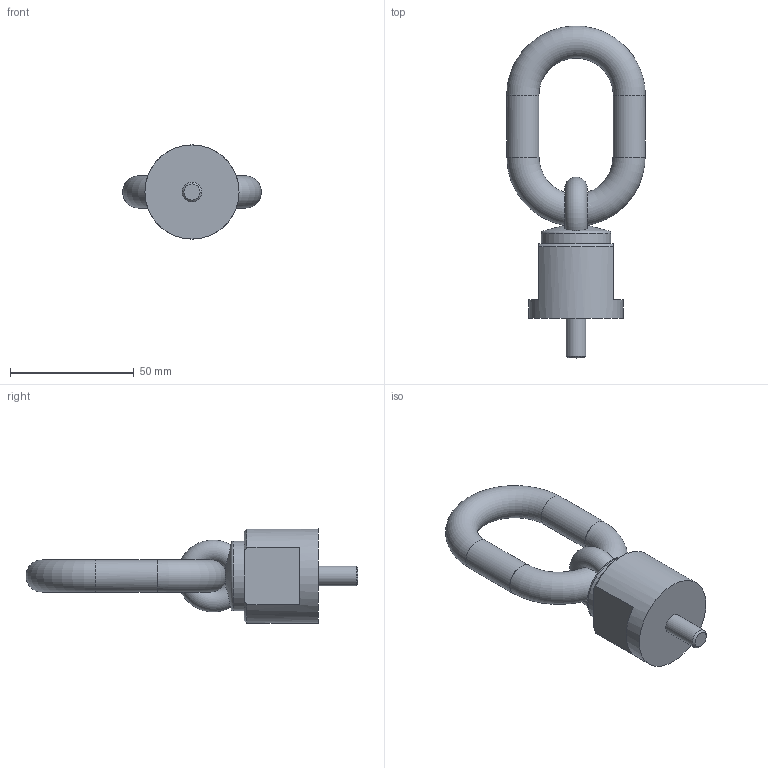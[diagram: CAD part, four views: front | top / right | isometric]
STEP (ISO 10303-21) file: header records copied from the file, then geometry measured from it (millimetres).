
FILE_DESCRIPTION( ( 'STEP AP203' ), '1' );
FILE_NAME( 'p:/temp/worker_5/temp/app_40_0201906261610127140513810e898ce_000000_00_00_000000/format_2/C8000030816.stp', '2019-06-26T14:10:13', ( '' ), ( '' ), ' ', 'PARTsolutions', ' ' );
FILE_SCHEMA( ( 'CONFIG_CONTROL_DESIGN' ) );
Length unit declared in the file: millimetre
Products named in the file (1): _C8000030816
Bounding box: 56 x 133.97 x 38 mm (x, y, z)
Volume: 62910 mm3; surface area: 14739.8 mm2
Topology: 1 solids, 1 shells, 25 faces, 65 edges, 40 vertices
Faces by surface type: plane 12, cylinder 5, torus 4, cone 4
Full cylindrical faces by diameter (mm): 8 x1, 13 x2, 28.2 x1, 38 x1
Entity records: 1050 total; most frequent: CARTESIAN_POINT 493, DIRECTION 110, ORIENTED_EDGE 86, AXIS2_PLACEMENT_3D 51, EDGE_CURVE 43, EDGE_LOOP 42, FACE_OUTER_BOUND 34, VERTEX_POINT 32
